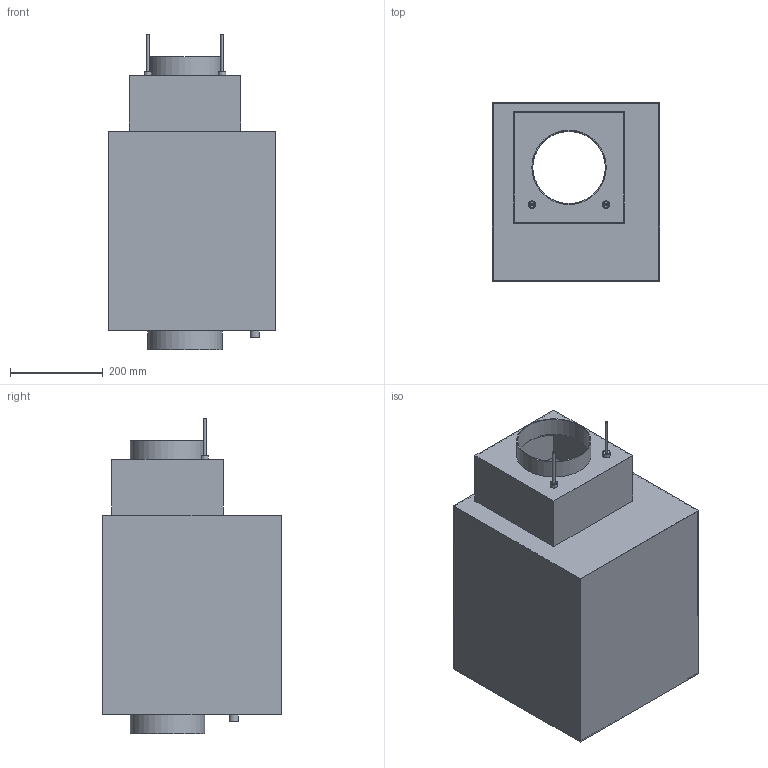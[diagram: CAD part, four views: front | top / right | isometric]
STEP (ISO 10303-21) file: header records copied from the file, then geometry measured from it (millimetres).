
FILE_DESCRIPTION(/* description */ (''),/* implementation_level */ '2;1');
FILE_NAME(/* name */ 'Z:\Output\KWL_HBX_250_WW_L-40185-001.stp',/* time_stamp */ '2023-04-06T13:33:05+02:00',/* author */ ('engineering1'),/* organization */ (''),/* preprocessor_version */ 'ST-DEVELOPER v18',/* originating_system */ 'Autodesk Inventor 2020',/* authorisation */ '');
FILE_SCHEMA (('AUTOMOTIVE_DESIGN { 1 0 10303 214 3 1 1 }'));
Length unit declared in the file: millimetre
Products named in the file (1): KWLHB-1
Bounding box: 360 x 385 x 678 mm (x, y, z)
Volume: 2055634.8 mm3; surface area: 2057627.1 mm2
Topology: 1 solids, 1 shells, 48 faces, 90 edges, 60 vertices
Faces by surface type: plane 34, cylinder 14
Full cylindrical faces by diameter (mm): 2 x2, 6 x2, 12 x2, 16 x3, 20 x1, 156 x2, 160 x2
Entity records: 1297 total; most frequent: DIRECTION 216, CARTESIAN_POINT 199, ORIENTED_EDGE 180, EDGE_CURVE 90, AXIS2_PLACEMENT_3D 77, EDGE_LOOP 66, LINE 62, VECTOR 62
